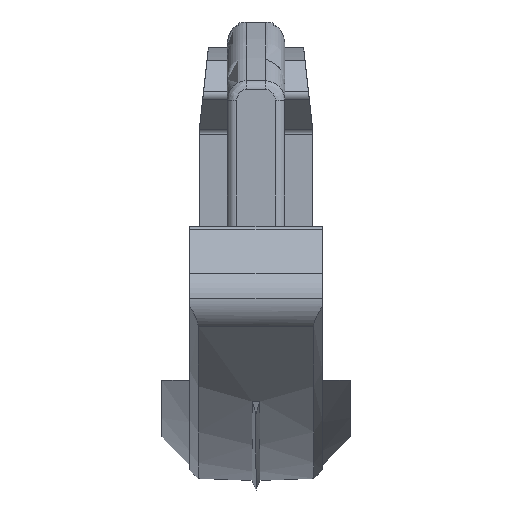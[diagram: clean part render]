
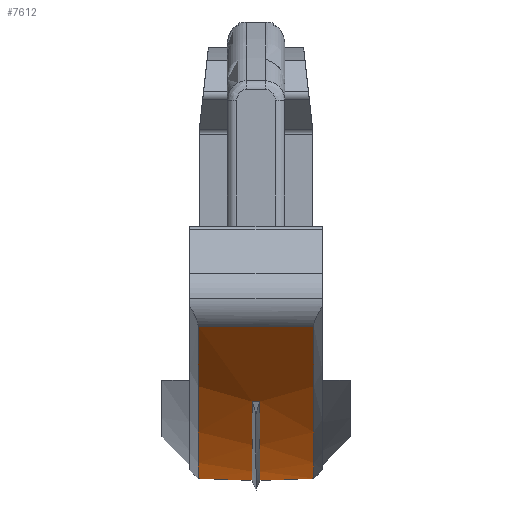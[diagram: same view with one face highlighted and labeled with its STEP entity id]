
A CAD part, left-side view. The second image highlights one B-rep face of the part: STEP entity #7612.
In plain terms, the highlighted cylindrical face has radius 50.2 mm (diameter 100.4 mm), a partial arc.
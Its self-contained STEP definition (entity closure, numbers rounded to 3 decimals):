
#104=CYLINDRICAL_SURFACE('',#8121,50.2);
#886=LINE('',#13362,#1570);
#887=LINE('',#13376,#1571);
#993=LINE('',#13787,#1677);
#994=LINE('',#13792,#1678);
#1570=VECTOR('',#9317,1000.);
#1571=VECTOR('',#9324,1000.);
#1677=VECTOR('',#9654,1000.);
#1678=VECTOR('',#9657,1000.);
#3544=ORIENTED_EDGE('',*,*,#4972,.F.);
#3545=ORIENTED_EDGE('',*,*,#4973,.T.);
#3546=ORIENTED_EDGE('',*,*,#4974,.T.);
#3547=ORIENTED_EDGE('',*,*,#4975,.T.);
#3548=ORIENTED_EDGE('',*,*,#4801,.T.);
#3549=ORIENTED_EDGE('',*,*,#4799,.F.);
#3550=ORIENTED_EDGE('',*,*,#4797,.T.);
#3551=ORIENTED_EDGE('',*,*,#4793,.T.);
#4793=EDGE_CURVE('',#5683,#5684,#5956,.T.);
#4797=EDGE_CURVE('',#5687,#5683,#886,.T.);
#4799=EDGE_CURVE('',#5687,#5688,#5958,.T.);
#4801=EDGE_CURVE('',#5684,#5688,#887,.F.);
#4972=EDGE_CURVE('',#5800,#5801,#993,.T.);
#4973=EDGE_CURVE('',#5800,#5802,#6000,.F.);
#4974=EDGE_CURVE('',#5802,#5803,#994,.T.);
#4975=EDGE_CURVE('',#5803,#5801,#6001,.T.);
#5683=VERTEX_POINT('',#13348);
#5684=VERTEX_POINT('',#13349);
#5687=VERTEX_POINT('',#13363);
#5688=VERTEX_POINT('',#13370);
#5800=VERTEX_POINT('',#13788);
#5801=VERTEX_POINT('',#13789);
#5802=VERTEX_POINT('',#13791);
#5803=VERTEX_POINT('',#13793);
#5956=CIRCLE('',#8004,50.2);
#5958=CIRCLE('',#8008,50.2);
#6000=CIRCLE('',#8122,50.2);
#6001=CIRCLE('',#8123,50.2);
#6430=EDGE_LOOP('',(#3544,#3545,#3546,#3547));
#6431=EDGE_LOOP('',(#3548,#3549,#3550,#3551));
#6891=FACE_BOUND('',#6430,.T.);
#6892=FACE_BOUND('',#6431,.T.);
#7612=ADVANCED_FACE('',(#6891,#6892),#104,.T.);
#8004=AXIS2_PLACEMENT_3D('',#13347,#9311,#9312);
#8008=AXIS2_PLACEMENT_3D('',#13369,#9320,#9321);
#8121=AXIS2_PLACEMENT_3D('',#13786,#9652,#9653);
#8122=AXIS2_PLACEMENT_3D('',#13790,#9655,#9656);
#8123=AXIS2_PLACEMENT_3D('',#13794,#9658,#9659);
#9311=DIRECTION('',(0.,1.,0.));
#9312=DIRECTION('',(-1.,0.,0.));
#9317=DIRECTION('',(0.,1.,0.));
#9320=DIRECTION('',(0.,1.,0.));
#9321=DIRECTION('',(-1.,0.,0.));
#9324=DIRECTION('',(0.,1.,0.));
#9652=DIRECTION('',(0.,1.,0.));
#9653=DIRECTION('',(0.,0.,1.));
#9654=DIRECTION('',(0.,1.,0.));
#9655=DIRECTION('',(0.,-1.,0.));
#9656=DIRECTION('',(0.,0.,-1.));
#9657=DIRECTION('',(0.,1.,0.));
#9658=DIRECTION('',(0.,-1.,0.));
#9659=DIRECTION('',(0.,0.,-1.));
#13347=CARTESIAN_POINT('',(0.,0.207,0.));
#13348=CARTESIAN_POINT('',(19.855,0.207,-46.106));
#13349=CARTESIAN_POINT('',(-19.855,0.207,-46.106));
#13362=CARTESIAN_POINT('',(19.855,-137.641,-46.106));
#13363=CARTESIAN_POINT('',(19.855,-0.207,-46.106));
#13369=CARTESIAN_POINT('',(0.,-0.207,0.));
#13370=CARTESIAN_POINT('',(-19.855,-0.207,-46.106));
#13376=CARTESIAN_POINT('',(-19.855,-137.641,-46.106));
#13786=CARTESIAN_POINT('',(0.,-137.641,0.));
#13787=CARTESIAN_POINT('',(27.175,-137.641,-42.208));
#13788=CARTESIAN_POINT('',(27.175,-3.,-42.208));
#13789=CARTESIAN_POINT('',(27.175,3.,-42.208));
#13790=CARTESIAN_POINT('',(0.,-3.,0.));
#13791=CARTESIAN_POINT('',(-27.175,-3.,-42.208));
#13792=CARTESIAN_POINT('',(-27.175,-137.641,-42.208));
#13793=CARTESIAN_POINT('',(-27.175,3.,-42.208));
#13794=CARTESIAN_POINT('',(0.,3.,0.));
